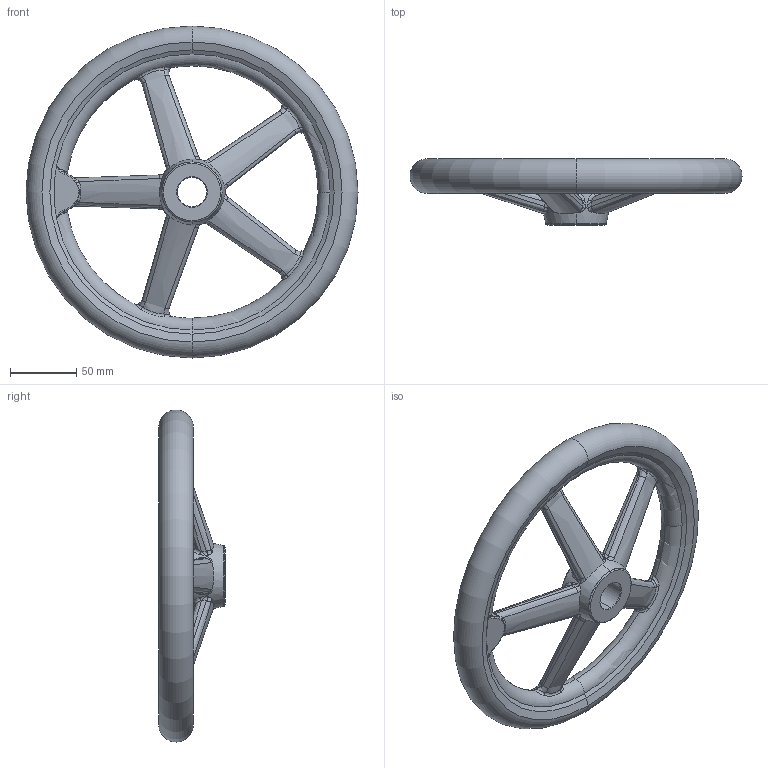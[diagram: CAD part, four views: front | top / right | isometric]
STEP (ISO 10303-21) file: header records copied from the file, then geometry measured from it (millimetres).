
FILE_DESCRIPTION (( 'STEP AP203' ), '1' );
FILE_NAME ('din950_a4_250x22.step', '2010-03-23T09:58:46', ( '_' ), ( '_' ), 'SwSTEP 2.0', 'SolidWorks 2010', '' );
FILE_SCHEMA (( 'CONFIG_CONTROL_DESIGN' ));
Length unit declared in the file: millimetre
Products named in the file (1): din950_a4_250x22
Bounding box: 250 x 50 x 250 mm (x, y, z)
Volume: 537082.8 mm3; surface area: 89418.4 mm2
Topology: 1 solids, 1 shells, 248 faces, 603 edges, 328 vertices
Faces by surface type: bspline 176, torus 19, cone 16, sphere 16, plane 14, cylinder 7
Entity records: 36865 total; most frequent: CARTESIAN_POINT 32192, ORIENTED_EDGE 1162, DIRECTION 618, EDGE_CURVE 581, B_SPLINE_CURVE_WITH_KNOTS 334, VERTEX_POINT 328, AXIS2_PLACEMENT_3D 298, EDGE_LOOP 253
